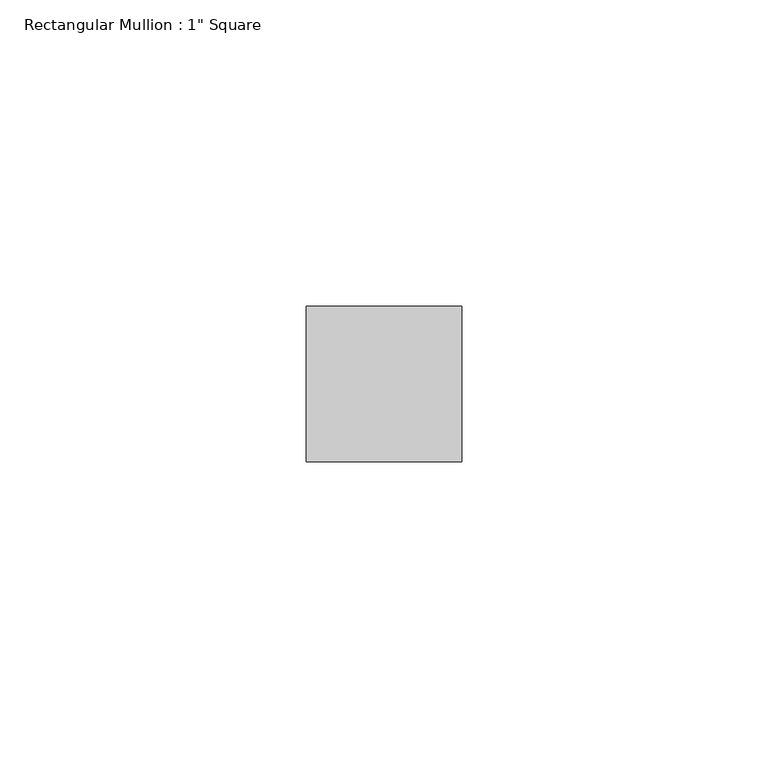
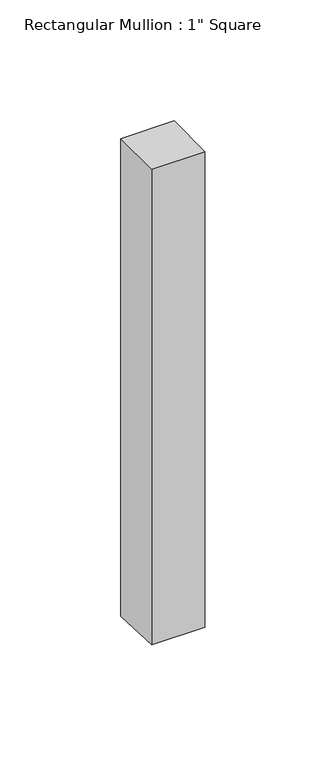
"""IFC4 building model written with IfcOpenShell, lengths in millimetres: member geometry."""

import ifcopenshell
import ifcopenshell.guid

model = None  # the IFC model being written
_history = None  # IfcOwnerHistory: only IFC2X3 demands one
_inside = {}  # id of a spatial element -> (the spatial element, [elements in it])
_under = {}  # id of a project, library or spatial element -> (it, [spatial elements below it])
_declared = {}  # id of a project -> (the project, [libraries it declares])
_typed = {}  # id of a type object -> (the type object, [elements of that type])
_made_of = {}  # id of a material, layer set ... -> (it, [elements and type objects made of it])


def new_model(schema):
    """Start an empty IFC model of exactly this schema.

    Asked for "IFC4X3", IfcOpenShell would pick the latest addendum, in which some entities
    have other attributes; the version numbers below select the first issue.
    IFC2X3 requires an IfcOwnerHistory on every rooted entity: one is made here for all.
    """
    global model, _history
    if schema == "IFC4X3":
        model = ifcopenshell.file(schema_version=(4, 3, 0, 0))
    else:
        model = ifcopenshell.file(schema=schema)
    _inside.clear()
    _under.clear()
    _declared.clear()
    _typed.clear()
    _made_of.clear()
    _history = None
    if model.schema == "IFC2X3":
        org = make("IfcOrganization", Name="unknown")
        user = make(
            "IfcPersonAndOrganization",
            ThePerson=make("IfcPerson", FamilyName="unknown"),
            TheOrganization=org,
        )
        app = make(
            "IfcApplication",
            ApplicationDeveloper=org,
            Version="unknown",
            ApplicationFullName="unknown",
            ApplicationIdentifier="unknown",
        )
        _history = make(
            "IfcOwnerHistory",
            OwningUser=user,
            OwningApplication=app,
            ChangeAction="ADDED",
            CreationDate=0,
        )
    return model


def make(cls, **values):
    """One entity of the class cls with the attributes given. An attribute that is None is left unset."""
    return model.create_entity(
        cls, **{name: value for name, value in values.items() if value is not None}
    )


def rooted(cls, **values):
    """An entity with a GlobalId (a new one), such as an element, a storey or a relation."""
    return make(cls, GlobalId=ifcopenshell.guid.new(), OwnerHistory=_history, **values)


def si_unit(unit_type, name, prefix=None):
    """IfcSIUnit, for example si_unit("LENGTHUNIT", "METRE", prefix="MILLI")."""
    return make("IfcSIUnit", UnitType=unit_type, Prefix=prefix, Name=name)


def assignment(units):
    """IfcUnitAssignment: the units of a project."""
    return None if units is None else make("IfcUnitAssignment", Units=units)


def point(xyz):
    """IfcCartesianPoint."""
    return None if xyz is None else make("IfcCartesianPoint", Coordinates=xyz)


def direction(xyz):
    """IfcDirection."""
    return None if xyz is None else make("IfcDirection", DirectionRatios=xyz)


def frame(location, z_axis=None, x_axis=None):
    """IfcAxis2Placement3D, a coordinate frame: its origin and axes. An axis left out is left unset."""
    return make(
        "IfcAxis2Placement3D",
        Location=point(location),
        Axis=direction(z_axis),
        RefDirection=direction(x_axis),
    )


def origin():
    """The frame at (0, 0, 0) with its axes left unset."""
    return frame((0.0, 0.0, 0.0))


def place(relative_to, where):
    """IfcLocalPlacement: puts the frame where relative to a parent placement (None: the world)."""
    return make(
        "IfcLocalPlacement", PlacementRelTo=relative_to, RelativePlacement=where
    )


def context(
    kind, dimensions, precision=None, world=None, true_north=None, identifier=None
):
    """IfcGeometricRepresentationContext, for example the 3D "Model" context."""
    return make(
        "IfcGeometricRepresentationContext",
        ContextIdentifier=identifier,
        ContextType=kind,
        CoordinateSpaceDimension=dimensions,
        Precision=precision,
        WorldCoordinateSystem=world,
        TrueNorth=true_north,
    )


def project(units=None, contexts=None):
    """IfcProject with its units and contexts."""
    return rooted(
        "IfcProject",
        Name="project",
        RepresentationContexts=contexts,
        UnitsInContext=assignment(units),
    )


def spatial(cls, under=None, at=None, **own):
    """A site, building, storey or space (cls), placed at a placement, below another one or the project."""
    s = rooted(cls, ObjectPlacement=at, **own)
    if under is not None:
        _under.setdefault(under.id(), (under, []))[1].append(s)
    return s


def faces_of(points, faces, orient=None, outer=None):
    """IfcFace entities. A face is a list of loops; a loop is a list of indices into points, from 0.

    orient and outer hold one flag for each loop. By default every Orientation is true, the
    first loop of a face is its IfcFaceOuterBound and the others are IfcFaceBound.
    """
    made = []
    for i, loops in enumerate(faces):
        bounds = []
        for j, loop in enumerate(loops):
            is_outer = j == 0 if outer is None else outer[i][j]
            bounds.append(
                make(
                    "IfcFaceOuterBound" if is_outer else "IfcFaceBound",
                    Bound=make("IfcPolyLoop", Polygon=[points[k] for k in loop]),
                    Orientation=True if orient is None else orient[i][j],
                )
            )
        made.append(make("IfcFace", Bounds=bounds))
    return made


def faceted_brep(points, faces, orient=None, outer=None, voids=None):
    """IfcFacetedBrep: a solid bounded by flat faces; with voids (closed shells), ...WithVoids."""
    shared = [point(p) for p in points]
    hull = make("IfcClosedShell", CfsFaces=faces_of(shared, faces, orient, outer))
    if voids is None:
        return make("IfcFacetedBrep", Outer=hull)
    return make(
        "IfcFacetedBrepWithVoids",
        Outer=hull,
        Voids=[
            make(cls, CfsFaces=faces_of(shared, fs, o, b)) for cls, fs, o, b in voids
        ],
    )


def shape(context_of_items, identifier, shape_type, items):
    """IfcShapeRepresentation: the items that make up one representation, for example the "Body"."""
    return make(
        "IfcShapeRepresentation",
        ContextOfItems=context_of_items,
        RepresentationIdentifier=identifier,
        RepresentationType=shape_type,
        Items=items,
    )


def source(mapping_origin, context_of_items, identifier, shape_type, items):
    """IfcRepresentationMap: a shape defined once, which mapped items show again and again."""
    return make(
        "IfcRepresentationMap",
        MappingOrigin=mapping_origin,
        MappedRepresentation=shape(context_of_items, identifier, shape_type, items),
    )


def transform(
    local_origin,
    x_axis=None,
    y_axis=None,
    z_axis=None,
    scale=None,
    scale2=None,
    scale3=None,
    uniform=True,
):
    """IfcCartesianTransformationOperator3D, or its non-uniform kind. x_axis, y_axis, z_axis: its Axis1, 2, 3."""
    if uniform:
        return make(
            "IfcCartesianTransformationOperator3D",
            Axis1=direction(x_axis),
            Axis2=direction(y_axis),
            LocalOrigin=point(local_origin),
            Scale=scale,
            Axis3=direction(z_axis),
        )
    return make(
        "IfcCartesianTransformationOperator3DnonUniform",
        Axis1=direction(x_axis),
        Axis2=direction(y_axis),
        LocalOrigin=point(local_origin),
        Scale=scale,
        Axis3=direction(z_axis),
        Scale2=scale2,
        Scale3=scale3,
    )


def mapped(mapping_source, mapping_target):
    """IfcMappedItem: shows the shape of a source again, moved by a transform."""
    return make(
        "IfcMappedItem", MappingSource=mapping_source, MappingTarget=mapping_target
    )


def made_of(thing, what):
    """Note that an element or type object is made of a material, layer set ...; save() writes the relation."""
    if what is not None:
        _made_of.setdefault(what.id(), (what, []))[1].append(thing)
    return thing


def element(
    cls,
    number,
    at=None,
    inside=None,
    cuts=None,
    type_object=None,
    material=None,
    context=None,
    identifier="Body",
    shape_type=None,
    held_by="IfcProductDefinitionShape",
    body=None,
    shapes=None,
    **own,
):
    """One element of the class cls, such as IfcWall. Its Tag is "e" and its number.

    at: its placement. inside: the storey or other place that contains it. cuts: it is an
    opening in that element (IfcRelVoidsElement). A single representation is given by context,
    identifier, shape_type and body (its items); several are given by shapes. held_by: the class
    of the entity that holds the representations. save() writes the other relations.
    """
    e = rooted(cls, Tag="e%d" % number, ObjectPlacement=at, **own)
    if body is not None:
        shapes = [shape(context, identifier, shape_type, body)]
    if shapes is not None:
        e.Representation = make(held_by, Representations=shapes)
    if inside is not None:
        _inside.setdefault(inside.id(), (inside, []))[1].append(e)
    if cuts is not None:
        rooted(
            "IfcRelVoidsElement", RelatingBuildingElement=cuts, RelatedOpeningElement=e
        )
    if type_object is not None:
        _typed.setdefault(type_object.id(), (type_object, []))[1].append(e)
    return made_of(e, material)


def aggregate(whole, parts):
    """IfcRelAggregates: a whole, such as a stair, and the parts it consists of."""
    return rooted("IfcRelAggregates", RelatingObject=whole, RelatedObjects=parts)


def save(model, path):
    """Write the relations noted so far, then the file.

    IfcRelAggregates (storeys below a building ...), IfcRelContainedInSpatialStructure (elements
    in a storey), IfcRelDefinesByType, IfcRelAssociatesMaterial and IfcRelDeclares: one each for
    every whole, place, type object, material and project.
    """
    for whole, parts in _under.values():
        aggregate(whole, parts)
    for where, things in _inside.values():
        rooted(
            "IfcRelContainedInSpatialStructure",
            RelatedElements=things,
            RelatingStructure=where,
        )
    for kind, things in _typed.values():
        rooted("IfcRelDefinesByType", RelatedObjects=things, RelatingType=kind)
    for what, things in _made_of.values():
        rooted("IfcRelAssociatesMaterial", RelatedObjects=things, RelatingMaterial=what)
    for by, libraries in _declared.values():
        rooted("IfcRelDeclares", RelatingContext=by, RelatedDefinitions=libraries)
    model.write(path)


def member_48ec9f95(model_context):
    return source(origin(), model_context, "Body", "Brep", [
        faceted_brep([(0.0, 12.7, 0.0), (-25.4, 12.7, 0.0), (-25.4, -12.7, 0.0), (0.0, -12.7, 0.0), (0.0, 12.7, -241.03267), (-25.4, 12.7, -241.0998286), (-25.4, -12.7, -240.0446729), (0.0, -12.7, -239.9775143)], [[[0, 1, 2, 3]], [[1, 0, 4, 5]], [[2, 1, 5, 6]], [[3, 2, 6, 7]], [[0, 3, 7, 4]], [[4, 7, 6, 5]]]),
    ])


if __name__ == "__main__":
    model = new_model("IFC4")
    model_context = context("Model", 3, world=origin())
    ifc_project = project(units=[si_unit("LENGTHUNIT", "METRE", prefix="MILLI")], contexts=[model_context])
    site = spatial("IfcSite", under=ifc_project)
    building = spatial("IfcBuilding", under=site)
    placement = place(None, origin())
    member_shape = member_48ec9f95(model_context)
    element("IfcMember", 1, ObjectType="Rectangular Mullion : 1\" Square", at=placement, inside=building, context=model_context, shape_type="MappedRepresentation", body=[
        mapped(member_shape, transform((0.0, 0.0, 0.0), x_axis=(1.0, 0.0, 0.0), y_axis=(0.0, 1.0, 0.0), z_axis=(0.0, 0.0, 1.0))),
    ])
    save(model, "model.ifc")
